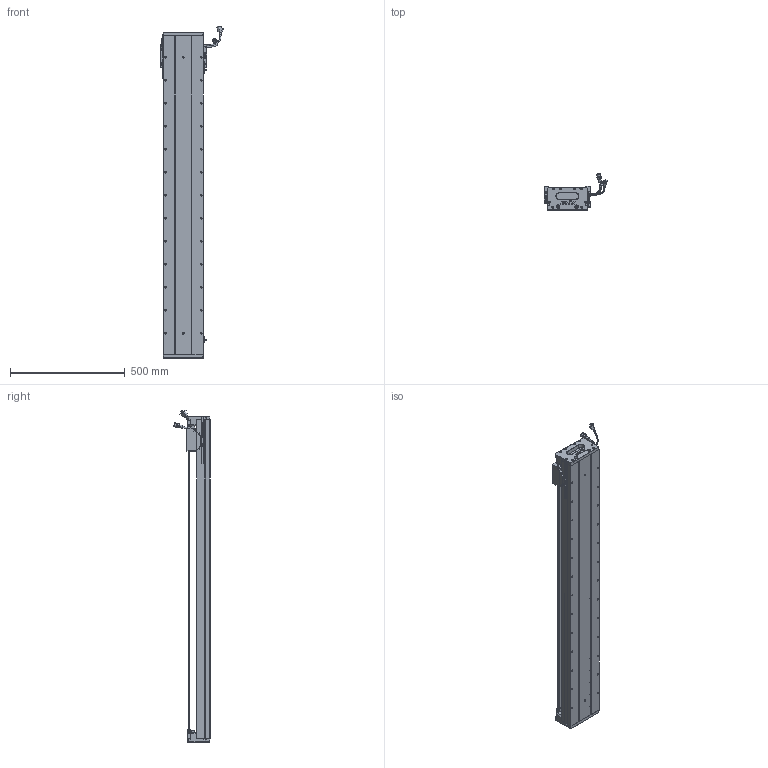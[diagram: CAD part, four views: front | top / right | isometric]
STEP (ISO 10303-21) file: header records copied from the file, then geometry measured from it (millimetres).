
FILE_DESCRIPTION (( 'STEP AP203' ), '1' );
FILE_NAME ('Z1-RY170D-1-L500-B-K.SLDASM_1200.step', '2021-05-17T08:52:39', ( '盈信电脑' ), ( '东莞市道滘镇水果街19号' ), 'SwSTEP 2.0', 'SolidWorks 2016', '' );
FILE_SCHEMA (( 'CONFIG_CONTROL_DESIGN' ));
Length unit declared in the file: millimetre
Products named in the file (36): SCALE-Part-2; 080黍杅芛假蚾釱21遴; SCREW-M1.6; Z1-RY170臏賑輸(21遴); SEAL-Part-1; SCALE-Part-1; COVER-Part-1; Z1-RY170D-1-L500-B-K.SLDASM_1200; HARNESS-Part-1; 140蚥薯蝶輸; PBU_SHEET; HARNESS; RY170直线电机感应器672光电感应片; LABEL; 170-Z-臏賑輸盄裔(21遴); Z1-RY170-L500詩湍145mm遵_1200; SCREW-M1.7-1; SCALE; PSLH080_PSLF2; SCREW-M1.7; Z-RY170詩湍奻揤裔; 覜茼ん672; HARNESS-Part-2; SHIELDPLATE; Z-RY170詩湍狟揤裔; HOLDER0; COVER; Z-170詩湍傷裔啣; LABEL-Part-1; SCREW-M1.6-3; 140雄赽晤鎢ん堤盄; 榋妏寠巭燃_暯_M2_2; SCREW-M1.6-2; SCREW-M1.6-1; SEAL; Z1-RY170-L500耀郪菁釱_1200
Assembly tree (41 placements, depth 4):
  Z1-RY170D-1-L500-B-K.SLDASM_1200
    Z1-RY170-L500耀郪菁釱_1200
    RY170直线电机感应器672光电感应片
    Z1-RY170臏賑輸(21遴)
    覜茼ん672  x3
    PSLH080_PSLF2
      SCALE
        SCALE-Part-1
        SCALE-Part-2
      HARNESS
        HARNESS-Part-1
        HARNESS-Part-2
      LABEL
        LABEL-Part-1
      COVER
        COVER-Part-1
      SEAL
        SEAL-Part-1
      榋妏寠巭燃_暯_M2_2
      SHIELDPLATE
      SCREW-M1.7
      SCREW-M1.7-1
      PBU_SHEET
      SCREW-M1.6
      SCREW-M1.6-1
      SCREW-M1.6-2
      SCREW-M1.6-3
      HOLDER0
    080黍杅芛假蚾釱21遴
    Z1-RY170-L500詩湍145mm遵_1200
    Z-170詩湍傷裔啣  x2
    Z-RY170詩湍奻揤裔  x2
    Z-RY170詩湍狟揤裔  x2
    140蚥薯蝶輸  x2
    170-Z-臏賑輸盄裔(21遴)
    140雄赽晤鎢ん堤盄
Bounding box: 275.34 x 158.11 x 1443.72 mm (x, y, z)
Volume: 7386561.2 mm3; surface area: 1835676.6 mm2
Topology: 36 solids, 36 shells, 3138 faces, 8465 edges, 5313 vertices
Faces by surface type: cylinder 1452, plane 1168, cone 396, torus 69, bspline 53
Entity records: 93201 total; most frequent: CARTESIAN_POINT 24330, ORIENTED_EDGE 13710, DIRECTION 13311, EDGE_CURVE 6855, AXIS2_PLACEMENT_3D 4860, VERTEX_POINT 4431, LINE 3591, VECTOR 3591
